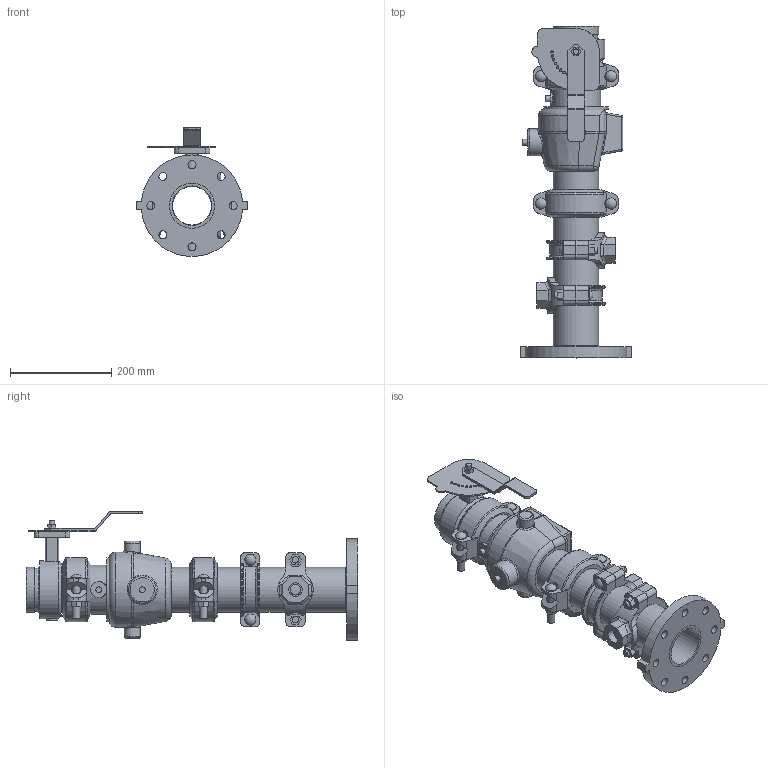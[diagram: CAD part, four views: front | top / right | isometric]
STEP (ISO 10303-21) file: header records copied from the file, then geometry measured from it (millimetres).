
FILE_DESCRIPTION(/* description */ ('VIC DVI PUMP DROP VERT S/390 (OGSxFLG)','CAx-IF Rec.Pracs.---Representation and Presentation of Product Manufacturing Information (PMI)---4.0---2014-10-13'),/* implementation_level */ '2;1');
FILE_NAME(/* name */ 'C:\Users\Vjadhav\AppData\Roaming\Autodesk\ApplicationPlugins\Back Up\Victaulic_IPS_Vertical DVI_PN10_Series 390 (OGSxFLG)\Victaulic_IPS_Vertical DVI_PN10_Series 390 (OGSxFLG)_03.0x03.0 (80x80).stp',/* time_stamp */ '2020-11-09T17:49:58+05:00',/* author */ ('Vjadhav'),/* organization */ ('Victaulic'),/* preprocessor_version */ 'ST-DEVELOPER v17.2',/* originating_system */ 'Autodesk Inventor 2019',/* authorisation */ '');
FILE_SCHEMA (('AP242_MANAGED_MODEL_BASED_3D_ENGINEERING_MIM_LF { 1 0 10303 442 1 1 4 }'));
Length unit declared in the file: inch
Products named in the file (9): 390-03.0x03.0; 741-03.0; Pipe-03.0x03.0; 716H-03.0; 177N-03.0; 761-03.0; 920NT-03.0x0.75; 920N LOWER HSG-03.0; 920NT-03.0x0.75_1
Assembly tree (10 placements, depth 3):
  390-03.0x03.0
    741-03.0
    Pipe-03.0x03.0
    177N-03.0  x2
    716H-03.0
    761-03.0
    920NT-03.0x0.75  x2
      920N LOWER HSG-03.0
      920NT-03.0x0.75_1
Bounding box: 219.2 x 654.05 x 254.25 mm (x, y, z)
Volume: 4356604.6 mm3; surface area: 807593.5 mm2
Topology: 10 solids, 11 shells, 660 faces, 1726 edges, 1134 vertices
Faces by surface type: plane 325, cylinder 245, bspline 35, torus 31, sphere 14, cone 10
Full cylindrical faces by diameter (mm): 4.826 x10, 8.636 x4, 10.922 x2, 11.43 x2, 12.7 x8, 14.605 x4, 16.002 x8, 20.93 x2, 21.982 x4, 22.225 x4, 22.86 x1, 26.924 x2, 31.75 x2, 32.004 x1, 53.975 x1, 55.118 x1, 76.2 x2, 77.927 x2, 80.772 x1, 84.938 x6, 88.9 x15, 97.028 x1, 114.3 x1, 127 x1
Entity records: 16465 total; most frequent: CARTESIAN_POINT 4270, DIRECTION 2445, ORIENTED_EDGE 2348, EDGE_CURVE 1174, AXIS2_PLACEMENT_3D 936, VERTEX_POINT 766, LINE 573, VECTOR 573
